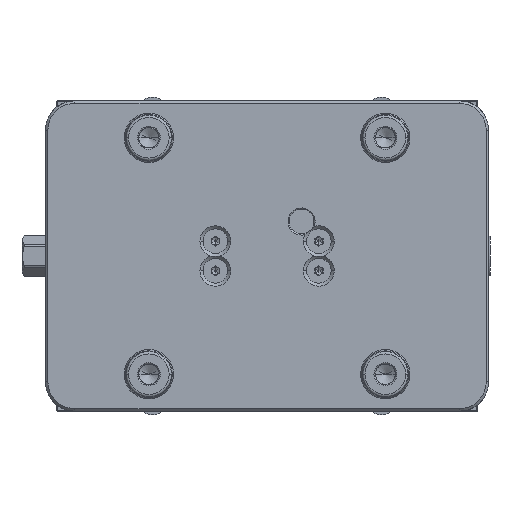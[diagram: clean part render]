
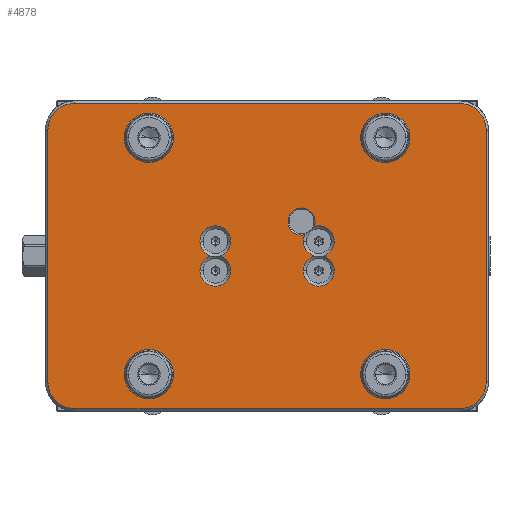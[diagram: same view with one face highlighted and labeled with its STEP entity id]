
A CAD part, front view. The second image highlights one B-rep face of the part: STEP entity #4878.
In plain terms, the highlighted planar face has unit normal (0, -1, 0).
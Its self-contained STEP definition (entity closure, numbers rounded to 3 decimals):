
#2=CARTESIAN_POINT('',(48.,0.,-48.));
#3=DIRECTION('',(0.,1.,0.));
#4=DIRECTION('',(1.,0.,0.));
#5=AXIS2_PLACEMENT_3D('',#2,#3,#4);
#7=CARTESIAN_POINT('',(48.,0.,-48.));
#8=DIRECTION('',(0.,1.,0.));
#9=DIRECTION('',(-1.,0.,0.));
#10=AXIS2_PLACEMENT_3D('',#7,#8,#9);
#12=CARTESIAN_POINT('',(48.,0.,48.));
#13=DIRECTION('',(0.,1.,0.));
#14=DIRECTION('',(1.,0.,0.));
#15=AXIS2_PLACEMENT_3D('',#12,#13,#14);
#17=CARTESIAN_POINT('',(48.,0.,48.));
#18=DIRECTION('',(0.,1.,0.));
#19=DIRECTION('',(-1.,0.,0.));
#20=AXIS2_PLACEMENT_3D('',#17,#18,#19);
#22=CARTESIAN_POINT('',(-48.,0.,-48.));
#23=DIRECTION('',(0.,1.,0.));
#24=DIRECTION('',(1.,0.,0.));
#25=AXIS2_PLACEMENT_3D('',#22,#23,#24);
#27=CARTESIAN_POINT('',(-48.,0.,-48.));
#28=DIRECTION('',(0.,1.,0.));
#29=DIRECTION('',(-1.,0.,0.));
#30=AXIS2_PLACEMENT_3D('',#27,#28,#29);
#32=CARTESIAN_POINT('',(-48.,0.,48.));
#33=DIRECTION('',(0.,1.,0.));
#34=DIRECTION('',(1.,0.,0.));
#35=AXIS2_PLACEMENT_3D('',#32,#33,#34);
#37=CARTESIAN_POINT('',(-48.,0.,48.));
#38=DIRECTION('',(0.,1.,0.));
#39=DIRECTION('',(-1.,0.,0.));
#40=AXIS2_PLACEMENT_3D('',#37,#38,#39);
#42=CARTESIAN_POINT('',(-21.,0.,-6.));
#43=DIRECTION('',(0.,-1.,0.));
#44=DIRECTION('',(-1.,0.,0.));
#45=AXIS2_PLACEMENT_3D('',#42,#43,#44);
#47=CARTESIAN_POINT('',(-21.,0.,-6.));
#48=DIRECTION('',(0.,-1.,0.));
#49=DIRECTION('',(1.,0.,0.));
#50=AXIS2_PLACEMENT_3D('',#47,#48,#49);
#52=CARTESIAN_POINT('',(-21.,0.,6.));
#53=DIRECTION('',(0.,-1.,0.));
#54=DIRECTION('',(0.28,0.,-0.96));
#55=AXIS2_PLACEMENT_3D('',#52,#53,#54);
#57=CARTESIAN_POINT('',(-21.,0.,6.));
#58=DIRECTION('',(0.,-1.,0.));
#59=DIRECTION('',(1.,0.,0.));
#60=AXIS2_PLACEMENT_3D('',#57,#58,#59);
#62=CARTESIAN_POINT('',(-21.,0.,6.));
#63=DIRECTION('',(0.,-1.,0.));
#64=DIRECTION('',(-1.,0.,0.));
#65=AXIS2_PLACEMENT_3D('',#62,#63,#64);
#67=CARTESIAN_POINT('',(-21.,0.,-6.));
#68=DIRECTION('',(0.,-1.,0.));
#69=DIRECTION('',(-0.28,0.,0.96));
#70=AXIS2_PLACEMENT_3D('',#67,#68,#69);
#72=CARTESIAN_POINT('',(21.,0.,-6.));
#73=DIRECTION('',(0.,-1.,0.));
#74=DIRECTION('',(-1.,0.,0.));
#75=AXIS2_PLACEMENT_3D('',#72,#73,#74);
#77=CARTESIAN_POINT('',(21.,0.,-6.));
#78=DIRECTION('',(0.,-1.,0.));
#79=DIRECTION('',(1.,0.,0.));
#80=AXIS2_PLACEMENT_3D('',#77,#78,#79);
#82=CARTESIAN_POINT('',(21.,0.,6.));
#83=DIRECTION('',(0.,-1.,0.));
#84=DIRECTION('',(0.28,0.,-0.96));
#85=AXIS2_PLACEMENT_3D('',#82,#83,#84);
#87=CARTESIAN_POINT('',(21.,0.,6.));
#88=DIRECTION('',(0.,-1.,0.));
#89=DIRECTION('',(1.,0.,0.));
#90=AXIS2_PLACEMENT_3D('',#87,#88,#89);
#92=CARTESIAN_POINT('',(21.,0.,6.));
#93=DIRECTION('',(0.,-1.,0.));
#94=DIRECTION('',(-0.904,0.,0.427));
#95=AXIS2_PLACEMENT_3D('',#92,#93,#94);
#97=CARTESIAN_POINT('',(21.,0.,6.));
#98=DIRECTION('',(0.,-1.,0.));
#99=DIRECTION('',(-1.,0.,0.));
#100=AXIS2_PLACEMENT_3D('',#97,#98,#99);
#102=CARTESIAN_POINT('',(21.,0.,-6.));
#103=DIRECTION('',(0.,-1.,0.));
#104=DIRECTION('',(-0.28,0.,0.96));
#105=AXIS2_PLACEMENT_3D('',#102,#103,#104);
#107=DIRECTION('',(0.,0.,-1.));
#108=VECTOR('',#107,102.);
#109=CARTESIAN_POINT('',(-89.,0.,
51.));
#110=LINE('',#109,#108);
#111=CARTESIAN_POINT('',(-78.,0.,51.));
#112=DIRECTION('',(0.,-1.,0.));
#113=DIRECTION('',(0.,0.,1.));
#114=AXIS2_PLACEMENT_3D('',#111,#112,#113);
#116=DIRECTION('',(-1.,0.,0.));
#117=VECTOR('',#116,156.);
#118=CARTESIAN_POINT('',(78.,0.,62.));
#119=LINE('',#118,#117);
#120=CARTESIAN_POINT('',(78.,0.,51.));
#121=DIRECTION('',(0.,-1.,0.));
#122=DIRECTION('',(1.,0.,0.));
#123=AXIS2_PLACEMENT_3D('',#120,#121,#122);
#125=DIRECTION('',(0.,0.,1.));
#126=VECTOR('',#125,102.);
#127=CARTESIAN_POINT('',(89.,0.,
-51.));
#128=LINE('',#127,#126);
#129=CARTESIAN_POINT('',(78.,0.,-51.));
#130=DIRECTION('',(0.,-1.,0.));
#131=DIRECTION('',(0.,0.,-1.));
#132=AXIS2_PLACEMENT_3D('',#129,#130,#131);
#134=DIRECTION('',(1.,0.,0.));
#135=VECTOR('',#134,156.);
#136=CARTESIAN_POINT('',(-78.,0.,
-62.));
#137=LINE('',#136,#135);
#138=CARTESIAN_POINT('',(-78.,0.,-51.));
#139=DIRECTION('',(0.,-1.,0.));
#140=DIRECTION('',(-1.,0.,0.));
#141=AXIS2_PLACEMENT_3D('',#138,#139,#140);
#692=CARTESIAN_POINT('',(14.,0.,14.));
#693=DIRECTION('',(0.,1.,0.));
#694=DIRECTION('',(0.245,0.,-0.97));
#695=AXIS2_PLACEMENT_3D('',#692,#693,#694);
#3853=CARTESIAN_POINT('',(56.5,0.,-48.));
#3854=CARTESIAN_POINT('',(39.5,0.,-48.));
#3855=VERTEX_POINT('',#3853);
#3856=VERTEX_POINT('',#3854);
#3861=CARTESIAN_POINT('',(56.5,0.,48.));
#3862=CARTESIAN_POINT('',(39.5,0.,48.));
#3863=VERTEX_POINT('',#3861);
#3864=VERTEX_POINT('',#3862);
#3869=CARTESIAN_POINT('',(-39.5,0.,-48.));
#3870=CARTESIAN_POINT('',(-56.5,0.,-48.));
#3871=VERTEX_POINT('',#3869);
#3872=VERTEX_POINT('',#3870);
#3877=CARTESIAN_POINT('',(-39.5,0.,48.));
#3878=CARTESIAN_POINT('',(-56.5,0.,48.));
#3879=VERTEX_POINT('',#3877);
#3880=VERTEX_POINT('',#3878);
#4081=CARTESIAN_POINT('',(-14.75,0.,6.));
#4082=CARTESIAN_POINT('',(-27.25,0.,6.));
#4083=VERTEX_POINT('',#4081);
#4084=VERTEX_POINT('',#4082);
#4089=CARTESIAN_POINT('',(27.25,0.,6.));
#4090=CARTESIAN_POINT('',(19.106,0.,11.956));
#4091=VERTEX_POINT('',#4089);
#4092=VERTEX_POINT('',#4090);
#4093=CARTESIAN_POINT('',(15.348,0.,8.668));
#4094=CARTESIAN_POINT('',(14.75,0.,6.));
#4095=VERTEX_POINT('',#4093);
#4096=VERTEX_POINT('',#4094);
#4103=CARTESIAN_POINT('',(-27.25,0.,-6.));
#4104=CARTESIAN_POINT('',(-14.75,0.,-6.));
#4105=VERTEX_POINT('',#4103);
#4106=VERTEX_POINT('',#4104);
#4107=CARTESIAN_POINT('',(-19.25,0.,0.));
#4108=VERTEX_POINT('',#4107);
#4109=CARTESIAN_POINT('',(-22.75,0.,0.));
#4110=VERTEX_POINT('',#4109);
#4115=CARTESIAN_POINT('',(14.75,0.,-6.));
#4116=CARTESIAN_POINT('',(27.25,0.,-6.));
#4117=VERTEX_POINT('',#4115);
#4118=VERTEX_POINT('',#4116);
#4119=CARTESIAN_POINT('',(22.75,0.,0.));
#4120=VERTEX_POINT('',#4119);
#4121=CARTESIAN_POINT('',(19.25,0.,0.));
#4122=VERTEX_POINT('',#4121);
#4673=CARTESIAN_POINT('',(-89.,0.,
51.));
#4674=CARTESIAN_POINT('',(-89.,0.,
-51.));
#4675=VERTEX_POINT('',#4673);
#4676=VERTEX_POINT('',#4674);
#4677=CARTESIAN_POINT('',(-78.,0.,62.));
#4678=VERTEX_POINT('',#4677);
#4681=CARTESIAN_POINT('',(78.,0.,
62.));
#4682=VERTEX_POINT('',#4681);
#4685=CARTESIAN_POINT('',(89.,0.,51.));
#4686=VERTEX_POINT('',#4685);
#4689=CARTESIAN_POINT('',(89.,0.,
-51.));
#4690=VERTEX_POINT('',#4689);
#4693=CARTESIAN_POINT('',(78.,0.,-62.));
#4694=VERTEX_POINT('',#4693);
#4697=CARTESIAN_POINT('',(-78.,0.,
-62.));
#4698=VERTEX_POINT('',#4697);
#4799=CARTESIAN_POINT('',(0.,0.,0.));
#4800=DIRECTION('',(0.,1.,0.));
#4801=DIRECTION('',(1.,0.,0.));
#4802=AXIS2_PLACEMENT_3D('',#4799,#4800,#4801);
#4803=PLANE('',#4802);
#4805=ORIENTED_EDGE('',*,*,#4804,.F.);
#4807=ORIENTED_EDGE('',*,*,#4806,.F.);
#4809=ORIENTED_EDGE('',*,*,#4808,.F.);
#4811=ORIENTED_EDGE('',*,*,#4810,.F.);
#4813=ORIENTED_EDGE('',*,*,#4812,.F.);
#4815=ORIENTED_EDGE('',*,*,#4814,.F.);
#4817=ORIENTED_EDGE('',*,*,#4816,.F.);
#4819=ORIENTED_EDGE('',*,*,#4818,.F.);
#4820=EDGE_LOOP('',(#4805,#4807,#4809,#4811,#4813,#4815,#4817,#4819));
#4821=FACE_OUTER_BOUND('',#4820,.F.);
#4823=ORIENTED_EDGE('',*,*,#4822,.F.);
#4825=ORIENTED_EDGE('',*,*,#4824,.F.);
#4826=EDGE_LOOP('',(#4823,#4825));
#4827=FACE_BOUND('',#4826,.F.);
#4829=ORIENTED_EDGE('',*,*,#4828,.F.);
#4831=ORIENTED_EDGE('',*,*,#4830,.F.);
#4832=EDGE_LOOP('',(#4829,#4831));
#4833=FACE_BOUND('',#4832,.F.);
#4835=ORIENTED_EDGE('',*,*,#4834,.F.);
#4837=ORIENTED_EDGE('',*,*,#4836,.F.);
#4838=EDGE_LOOP('',(#4835,#4837));
#4839=FACE_BOUND('',#4838,.F.);
#4841=ORIENTED_EDGE('',*,*,#4840,.T.);
#4843=ORIENTED_EDGE('',*,*,#4842,.T.);
#4845=ORIENTED_EDGE('',*,*,#4844,.T.);
#4847=ORIENTED_EDGE('',*,*,#4846,.T.);
#4849=ORIENTED_EDGE('',*,*,#4848,.T.);
#4851=ORIENTED_EDGE('',*,*,#4850,.T.);
#4852=EDGE_LOOP('',(#4841,#4843,#4845,#4847,#4849,#4851));
#4853=FACE_BOUND('',#4852,.F.);
#4855=ORIENTED_EDGE('',*,*,#4854,.T.);
#4857=ORIENTED_EDGE('',*,*,#4856,.T.);
#4859=ORIENTED_EDGE('',*,*,#4858,.T.);
#4861=ORIENTED_EDGE('',*,*,#4860,.T.);
#4863=ORIENTED_EDGE('',*,*,#4862,.F.);
#4865=ORIENTED_EDGE('',*,*,#4864,.T.);
#4867=ORIENTED_EDGE('',*,*,#4866,.T.);
#4869=ORIENTED_EDGE('',*,*,#4868,.T.);
#4870=EDGE_LOOP('',(#4855,#4857,#4859,#4861,#4863,#4865,#4867,#4869));
#4871=FACE_BOUND('',#4870,.F.);
#4873=ORIENTED_EDGE('',*,*,#4872,.F.);
#4875=ORIENTED_EDGE('',*,*,#4874,.F.);
#4876=EDGE_LOOP('',(#4873,#4875));
#4877=FACE_BOUND('',#4876,.F.);
#6=CIRCLE('',#5,8.5);
#11=CIRCLE('',#10,8.5);
#16=CIRCLE('',#15,8.5);
#21=CIRCLE('',#20,8.5);
#26=CIRCLE('',#25,8.5);
#31=CIRCLE('',#30,8.5);
#36=CIRCLE('',#35,8.5);
#41=CIRCLE('',#40,8.5);
#46=CIRCLE('',#45,6.25);
#51=CIRCLE('',#50,6.25);
#56=CIRCLE('',#55,6.25);
#61=CIRCLE('',#60,6.25);
#66=CIRCLE('',#65,6.25);
#71=CIRCLE('',#70,6.25);
#76=CIRCLE('',#75,6.25);
#81=CIRCLE('',#80,6.25);
#86=CIRCLE('',#85,6.25);
#91=CIRCLE('',#90,6.25);
#96=CIRCLE('',#95,6.25);
#101=CIRCLE('',#100,6.25);
#106=CIRCLE('',#105,6.25);
#115=CIRCLE('',#114,11.);
#124=CIRCLE('',#123,11.);
#133=CIRCLE('',#132,11.);
#142=CIRCLE('',#141,11.);
#696=CIRCLE('',#695,5.5);
#4804=EDGE_CURVE('',#4675,#4676,#110,.T.);
#4806=EDGE_CURVE('',#4678,#4675,#115,.T.);
#4808=EDGE_CURVE('',#4682,#4678,#119,.T.);
#4810=EDGE_CURVE('',#4686,#4682,#124,.T.);
#4812=EDGE_CURVE('',#4690,#4686,#128,.T.);
#4814=EDGE_CURVE('',#4694,#4690,#133,.T.);
#4816=EDGE_CURVE('',#4698,#4694,#137,.T.);
#4818=EDGE_CURVE('',#4676,#4698,#142,.T.);
#4822=EDGE_CURVE('',#3863,#3864,#16,.T.);
#4824=EDGE_CURVE('',#3864,#3863,#21,.T.);
#4828=EDGE_CURVE('',#3871,#3872,#26,.T.);
#4830=EDGE_CURVE('',#3872,#3871,#31,.T.);
#4834=EDGE_CURVE('',#3879,#3880,#36,.T.);
#4836=EDGE_CURVE('',#3880,#3879,#41,.T.);
#4840=EDGE_CURVE('',#4105,#4106,#46,.T.);
#4842=EDGE_CURVE('',#4106,#4108,#51,.T.);
#4844=EDGE_CURVE('',#4108,#4083,#56,.T.);
#4846=EDGE_CURVE('',#4083,#4084,#61,.T.);
#4848=EDGE_CURVE('',#4084,#4110,#66,.T.);
#4850=EDGE_CURVE('',#4110,#4105,#71,.T.);
#4854=EDGE_CURVE('',#4117,#4118,#76,.T.);
#4856=EDGE_CURVE('',#4118,#4120,#81,.T.);
#4858=EDGE_CURVE('',#4120,#4091,#86,.T.);
#4860=EDGE_CURVE('',#4091,#4092,#91,.T.);
#4862=EDGE_CURVE('',#4095,#4092,#696,.T.);
#4864=EDGE_CURVE('',#4095,#4096,#96,.T.);
#4866=EDGE_CURVE('',#4096,#4122,#101,.T.);
#4868=EDGE_CURVE('',#4122,#4117,#106,.T.);
#4872=EDGE_CURVE('',#3855,#3856,#6,.T.);
#4874=EDGE_CURVE('',#3856,#3855,#11,.T.);
#4878=ADVANCED_FACE('',(#4821,#4827,#4833,#4839,#4853,#4871,#4877),#4803,.F.);
